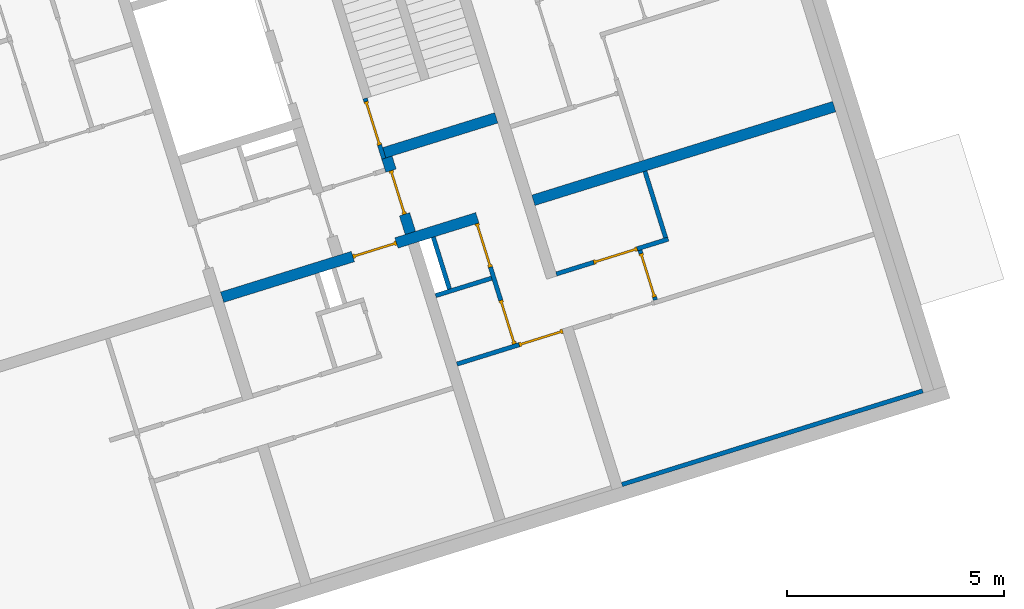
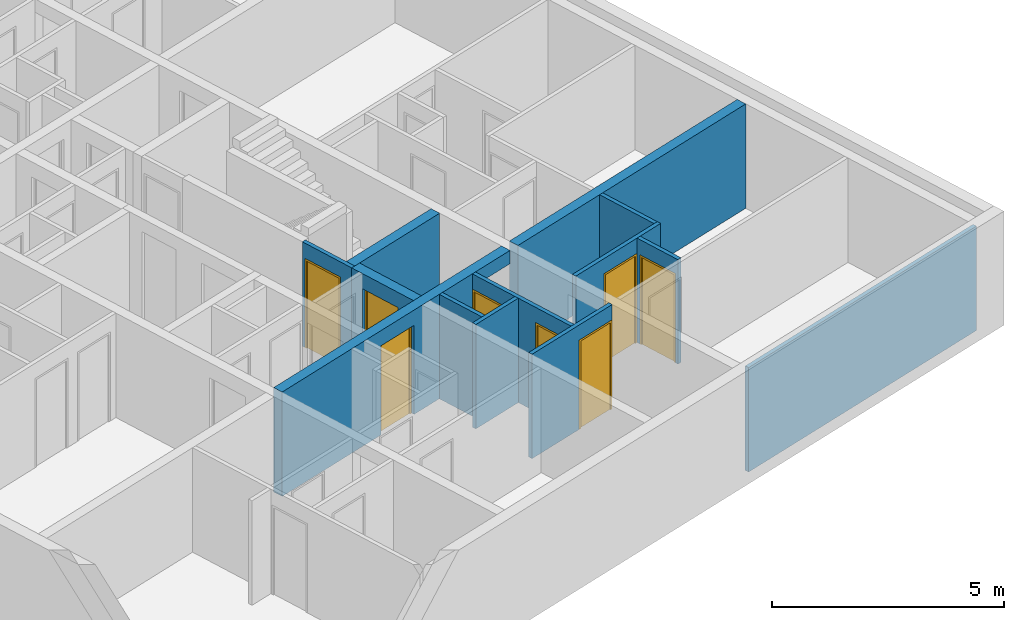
# One storey, part 3 of 8: 13 walls, 8 doors, 10 openings.
"""IFC4 building model written with IfcOpenShell, lengths in metres."""

from ifc_helpers import new_model, entity, si_unit, converted_unit, direction, frame, origin, place, context, subcontext, project, spatial, indexed_curve, outline, extrude, polygons, source, transform, mapped, material, constituent, constituent_set, type_object, type_shapes, element, fill, save


model = new_model("IFC4")

# Units and contexts
model_context = context("Model", 3, precision=1e-05, world=origin(), true_north=direction((6.12323399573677e-17, 1.0)))
body_context = subcontext(model_context, "Body", "Model", "MODEL_VIEW")
ifc_project = project(units=[si_unit("LENGTHUNIT", "METRE"), si_unit("AREAUNIT", "SQUARE_METRE"), si_unit("VOLUMEUNIT", "CUBIC_METRE"), converted_unit("PLANEANGLEUNIT", "DEGREE", entity("IfcPlaneAngleMeasure", 0.0174532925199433), si_unit("PLANEANGLEUNIT", "RADIAN"), dimensions=[0, 0, 0, 0, 0, 0, 0])], contexts=[model_context])

# Site, building, storey
site_placement = place(None, frame((13.1347999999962, 11.9886000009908, 0.0), z_axis=(0.0, 0.0, 1.0), x_axis=(0.954770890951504, 0.297342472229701, 0.0)))
site = spatial("IfcSite", under=ifc_project, at=site_placement, Name="Schiehaven", CompositionType="ELEMENT")
building_placement = place(site_placement, origin())
building = spatial("IfcBuilding", under=site, at=building_placement, Name="VORM huis", CompositionType="ELEMENT")
storey_placement = place(building_placement, frame((0.0, 0.0, 21.9)))
storey = spatial("IfcBuildingStorey", under=building, at=storey_placement, Name="07 zevende verdieping", CompositionType="ELEMENT", Elevation=21.9)

# Wall, openings, door
ifc_material_1 = material(Name="beton_gewapend_ihw", Category="Miscellaneous")
wall_type_1 = type_object("IfcWallType", Name="Basic Wall:28_WA_skelet_wand 250mm_gen", PredefinedType="STANDARD")
wall_1_placement = place(storey_placement, frame((19.8750000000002, 11.8999999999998, 0.0), z_axis=(0.0, 0.0, 1.0), x_axis=(-1.0, 0.0, 0.0)))
wall_1 = element("IfcWall", 1, at=wall_1_placement, inside=storey, type_object=wall_type_1, material=ifc_material_1, Name="Constructieve wand", ObjectType="Wand", PredefinedType="NOTDEFINED", context=body_context, shape_type="Tessellation", body=[
    polygons([(4.09999999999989, -0.124999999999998, 2.34999999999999), (4.09999999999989, -0.124999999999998, 0.0), (7.24999999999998, -0.124999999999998, 0.0), (7.24999999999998, -0.124999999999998, 2.75), (3.21810276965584e-15, -0.125, 2.75), (3.21810276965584e-15, -0.125, 2.4), (1.10000000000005, -0.125, 2.4), (1.10000000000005, -0.125, 0.0), (3.0499999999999, -0.125, 0.0), (3.0499999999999, -0.125, 2.34999999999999), (7.24999999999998, 0.125000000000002, 0.0), (4.0999999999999, 0.125000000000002, 0.0), (4.0999999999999, 0.125000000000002, 2.34999999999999), (3.0499999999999, 0.125, 2.34999999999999), (3.0499999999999, 0.125, 0.0), (1.10000000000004, 0.125, 0.0), (1.10000000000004, 0.125, 2.4), (4.15076800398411e-15, 0.125, 2.4), (8.48223652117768e-15, 0.125, 2.75), (7.24999999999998, 0.125000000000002, 2.75)], [[[1, 2, 3, 4, 5, 6, 7, 8, 9, 10]], [[11, 12, 13, 14, 15, 16, 17, 18, 19, 20]], [[9, 8, 16, 15]], [[5, 4, 20, 19]], [[5, 19, 18, 6]], [[15, 14, 10, 9]], [[13, 12, 2, 1]], [[14, 13, 1, 10]], [[17, 7, 6, 18]], [[7, 17, 16, 8]], [[4, 3, 11, 20]], [[3, 2, 12, 11]]], closed=True),
])
opening_1_placement = place(wall_1_placement, origin())
element("IfcOpeningElement", 2, at=opening_1_placement, cuts=wall_1, Name="Constructieve wand", PredefinedType="OPENING", context=body_context, shape_type="SweptSolid", body=[
    extrude(outline(indexed_curve([(-1.2, -0.550000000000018), (1.2, -0.550000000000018), (1.2, 0.550000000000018), (-1.2, 0.550000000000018), (-1.2, -0.550000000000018)], self_intersect=False)), frame((0.55000000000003, -0.125, 1.2), z_axis=(0.0, 1.0, 0.0), x_axis=(0.0, 0.0, -1.0)), (0.0, 0.0, 1.0), 0.249999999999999),
])
opening_2_placement = place(wall_1_placement, frame((4.09999999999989, 0.124999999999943, 0.0)))
opening_2 = element("IfcOpeningElement", 3, at=opening_2_placement, cuts=wall_1, Name="Woningtoegangsdeur", PredefinedType="OPENING", context=body_context, shape_type="SweptSolid", body=[
    extrude(outline(indexed_curve([(2.34999999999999, 1.05), (0.0, 1.05), (0.0, 1.08286712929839e-15), (2.34999999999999, 1.08286712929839e-15), (2.34999999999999, 1.05)], self_intersect=False)), frame((0.0, 0.0, 0.0), z_axis=(0.0, -1.0, 0.0), x_axis=(0.0, 0.0, 1.0)), (0.0, 0.0, 1.0), 0.25),
])
ifc_material_2 = material(Name="PD_a_binnenwandopeningen", Category="Miscellaneous")
ifc_constituent_1 = constituent(ifc_material_2, Name="PD_a_binnenwandopeningen", Category="Miscellaneous")
ifc_material_3 = material(Name="metaal_aluminium_ntb", Category="Miscellaneous")
ifc_constituent_2 = constituent(ifc_material_3, Name="metaal_aluminium_ntb", Category="Miscellaneous")
ifc_constituent_set_1 = constituent_set(constituents=[ifc_constituent_1, ifc_constituent_2])
door_type_1 = type_object("IfcDoorType", Name="32_DO_binnendeur enkel:woningtoegangsdeur", OperationType="REVOLVING", PredefinedType="DOOR")
shared_shape_1 = source(origin(), body_context, "Body", "SweptSolid", [
    extrude(outline(indexed_curve([(-1.16249999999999, -0.525000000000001), (1.18749999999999, -0.525), (1.18749999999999, 0.525000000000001), (-1.16249999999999, 0.525000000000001), (-1.16249999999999, 0.475), (1.13749999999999, 0.475), (1.13749999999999, -0.475), (-1.16249999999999, -0.475), (-1.16249999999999, -0.525000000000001)], self_intersect=False)), frame((0.525000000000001, 0.0749999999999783, 1.16249999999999), z_axis=(0.0, 1.0, 0.0), x_axis=(0.0, 0.0, 1.0)), (0.0, 0.0, 1.0), 0.1),
    extrude(outline(indexed_curve([(-0.025, -0.475), (0.025, -0.475), (0.025, 0.475), (-0.025, 0.475), (-0.025, -0.475)], self_intersect=False)), frame((0.525000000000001, 0.12499999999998, 0.0), z_axis=(0.0, 0.0, 1.0), x_axis=(0.0, 1.0, 0.0)), (0.0, 0.0, 1.0), 2.29999999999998),
])
door_1_placement = place(opening_2_placement, frame((0.0, 0.0, 0.0), z_axis=(0.0, 0.0, 1.0), x_axis=(-1.0, 0.0, 0.0)))
door_1 = element("IfcDoor", 4, at=door_1_placement, inside=storey, type_object=door_type_1, material=ifc_constituent_set_1, Name="Woningtoegangsdeur", ObjectType="Deur", OperationType="REVOLVING", OverallHeight=2.34999999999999, OverallWidth=1.05, PredefinedType="DOOR", context=body_context, shape_type="MappedRepresentation", body=[
    mapped(shared_shape_1, transform((0.0, 0.0, 0.0), scale=1.0)),
])
fill(opening_2, door_1)

# Walls
ifc_material_4 = material(Name="ntb_ntb_ntb", Category="Miscellaneous")
wall_type_2 = type_object("IfcWallType", Name="Basic Wall:21_WA_gevel_binnenspouwwand 100mm_gen", PredefinedType="STANDARD")
wall_2_placement = place(storey_placement, frame((20.125, 5.04999999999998, 0.0)))
element("IfcWall", 5, at=wall_2_placement, inside=storey, type_object=wall_type_2, material=ifc_material_4, Name="Binnenspouwblad", ObjectType="Wand", PredefinedType="NOTDEFINED", context=body_context, shape_type="SweptSolid", body=[
    extrude(outline(indexed_curve([(7.24999999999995, 0.0500000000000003), (-1.84844170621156e-16, 0.0500000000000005), (1.84844170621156e-16, -0.0500000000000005), (7.24999999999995, -0.0500000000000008), (7.24999999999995, 0.0500000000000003)], self_intersect=False)), origin(), (0.0, 0.0, 1.0), 2.75),
])
wall_type_3 = type_object("IfcWallType", Name="Basic Wall:22_WA_afbouw_binnenwand 250mm_gen", PredefinedType="STANDARD")
wall_3_placement = place(storey_placement, frame((20.125, 11.9, 0.0)))
element("IfcWall", 6, at=wall_3_placement, inside=storey, type_object=wall_type_3, material=ifc_material_4, Name="Binnenwand", ObjectType="Wand", PredefinedType="NOTDEFINED", context=body_context, shape_type="SweptSolid", body=[
    extrude(outline(indexed_curve([(7.24999999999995, 0.125), (-1.92055213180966e-16, 0.125), (1.92055213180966e-16, -0.125), (7.24999999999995, -0.124999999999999), (7.24999999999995, 0.125)], self_intersect=False)), origin(), (0.0, 0.0, 1.0), 2.75),
])

# Wall, opening, door
wall_4_placement = place(storey_placement, frame((17.2000000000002, 13.8399999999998, 0.0), z_axis=(0.0, 0.0, 1.0), x_axis=(0.0, -1.0, 0.0)))
wall_4 = element("IfcWall", 7, at=wall_4_placement, inside=storey, type_object=wall_type_3, material=ifc_material_4, Name="Binnenwand", ObjectType="Wand", PredefinedType="NOTDEFINED", context=body_context, shape_type="Tessellation", body=[
    polygons([(-4.33146851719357e-15, -0.124999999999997, 0.0), (0.215000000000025, -0.125, 0.0), (0.315000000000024, -0.124999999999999, 0.0), (0.315000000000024, -0.124999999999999, 2.34999999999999), (1.36500000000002, -0.125, 2.34999999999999), (1.36500000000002, -0.125, 0.0), (1.81499999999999, -0.125, 0.0), (1.81499999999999, -0.125, 2.75), (0.315000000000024, -0.124999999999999, 2.75), (0.215000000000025, -0.125, 2.75), (-4.33146851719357e-15, -0.124999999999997, 2.75), (0.315000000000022, 0.125000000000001, 2.34999999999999), (0.315000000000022, 0.125000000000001, 0.0), (0.0, 0.125, 0.0), (0.0, 0.125, 2.75), (1.81499999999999, 0.124999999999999, 2.75), (1.81499999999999, 0.124999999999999, 0.0), (1.36500000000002, 0.124999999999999, 0.0), (1.36500000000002, 0.124999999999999, 2.34999999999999), (0.0, -0.0250000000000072, 0.0), (0.0, -0.0250000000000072, 2.75)], [[[1, 2, 3, 4, 5, 6, 7, 8, 9, 10, 11]], [[12, 13, 14, 15, 16, 17, 18, 19]], [[14, 13, 3, 2, 1, 20]], [[8, 7, 17, 16]], [[11, 10, 9, 8, 16, 15, 21]], [[6, 5, 19, 18]], [[4, 3, 13, 12]], [[5, 4, 12, 19]], [[1, 11, 21, 15, 14, 20]], [[18, 17, 7, 6]]], closed=True),
])
opening_3_placement = place(wall_4_placement, frame((1.36500000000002, 0.124999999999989, 0.0)))
opening_3 = element("IfcOpeningElement", 8, at=opening_3_placement, cuts=wall_4, Name="Woningtoegangsdeur", PredefinedType="OPENING", context=body_context, shape_type="SweptSolid", body=[
    extrude(outline(indexed_curve([(2.34999999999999, 1.35358391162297e-15), (2.34999999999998, 1.05), (0.0, 1.05), (2.16573425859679e-15, 1.35358391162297e-15), (2.34999999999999, 1.35358391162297e-15)], self_intersect=False)), frame((0.0, 0.0, 0.0), z_axis=(0.0, -1.0, 0.0), x_axis=(0.0, 0.0, 1.0)), (0.0, 0.0, 1.0), 0.25),
])
ifc_constituent_3 = constituent(ifc_material_2, Name="PD_a_binnenwandopeningen", Category="Miscellaneous")
ifc_constituent_4 = constituent(ifc_material_3, Name="metaal_aluminium_ntb", Category="Miscellaneous")
ifc_constituent_set_2 = constituent_set(constituents=[ifc_constituent_3, ifc_constituent_4])
shared_shape_2 = source(origin(), body_context, "Body", "SweptSolid", [
    extrude(outline(indexed_curve([(0.475, -1.16249999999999), (0.525000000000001, -1.16249999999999), (0.525000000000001, 1.18749999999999), (-0.525000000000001, 1.18749999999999), (-0.525000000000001, -1.16249999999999), (-0.475, -1.16249999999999), (-0.475, 1.13749999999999), (0.475, 1.13749999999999), (0.475, -1.16249999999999)], self_intersect=False)), frame((0.525000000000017, 0.174999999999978, 1.16249999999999), z_axis=(0.0, -1.0, 0.0), x_axis=(1.0, 0.0, 0.0)), (0.0, 0.0, 1.0), 0.1),
    extrude(outline(indexed_curve([(-0.475, -0.025), (0.475, -0.025), (0.475, 0.025), (-0.475, 0.025), (-0.475, -0.025)], self_intersect=False)), frame((0.525000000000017, 0.12499999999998, 0.0)), (0.0, 0.0, 1.0), 2.29999999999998),
])
door_2_placement = place(opening_3_placement, frame((0.0, 0.0, 0.0), z_axis=(0.0, 0.0, 1.0), x_axis=(-1.0, 0.0, 0.0)))
door_2 = element("IfcDoor", 9, at=door_2_placement, inside=storey, type_object=door_type_1, material=ifc_constituent_set_2, Name="Woningtoegangsdeur", ObjectType="Deur", OperationType="REVOLVING", OverallHeight=2.34999999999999, OverallWidth=1.05, PredefinedType="DOOR", context=body_context, shape_type="MappedRepresentation", body=[
    mapped(shared_shape_2, transform((0.0, 0.0, 0.0), scale=1.0)),
])
fill(opening_3, door_2)

# Wall
wall_5_placement = place(storey_placement, frame((19.8750000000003, 13.9649999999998, 0.0), z_axis=(0.0, 0.0, 1.0), x_axis=(-1.0, 0.0, 0.0)))
element("IfcWall", 10, at=wall_5_placement, inside=storey, type_object=wall_type_3, material=ifc_material_4, Name="Binnenwand", ObjectType="Wand", PredefinedType="NOTDEFINED", context=body_context, shape_type="SweptSolid", body=[
    extrude(outline(indexed_curve([(2.70000000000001, 0.124999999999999), (2.34490905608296e-15, 0.125), (1.98655946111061e-15, -0.125), (2.70000000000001, -0.125), (2.70000000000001, 0.124999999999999)], self_intersect=False)), origin(), (0.0, 0.0, 1.0), 2.75),
])

# Wall, opening, door
wall_type_4 = type_object("IfcWallType", Name="Basic Wall:22_WA_afbouw_binnenwand 100mm_gen", PredefinedType="STANDARD")
wall_6_placement = place(storey_placement, frame((17.1250000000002, 13.8399999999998, 0.0), z_axis=(0.0, 0.0, 1.0), x_axis=(0.0, 1.0, 0.0)))
wall_6 = element("IfcWall", 11, at=wall_6_placement, inside=storey, type_object=wall_type_4, material=ifc_material_4, Name="Binnenwand", ObjectType="Wand", PredefinedType="NOTDEFINED", context=body_context, shape_type="Tessellation", body=[
    polygons([(1.44999999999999, -0.0499999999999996, 0.0), (1.44999999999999, -0.0499999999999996, 2.75), (0.249999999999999, -0.0500000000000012, 2.75), (2.16573425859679e-15, -0.0500000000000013, 2.75), (2.16573425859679e-15, -0.0500000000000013, 0.0), (0.249999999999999, -0.0500000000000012, 0.0), (0.324999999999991, -0.0499999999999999, 0.0), (0.324999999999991, -0.0499999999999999, 2.34999999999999), (1.37499999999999, -0.050000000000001, 2.34999999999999), (1.37499999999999, -0.050000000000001, 0.0), (1.44999999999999, 0.0500000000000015, 2.75), (1.44999999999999, 0.0500000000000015, 0.0), (1.37499999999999, 0.0500000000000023, 0.0), (1.37499999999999, 0.0500000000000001, 2.34999999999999), (0.324999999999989, 0.0500000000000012, 2.34999999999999), (0.324999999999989, 0.0500000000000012, 0.0), (0.0, 0.050000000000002, 0.0), (0.0, 0.050000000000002, 2.75)], [[[1, 2, 3, 4, 5, 6, 7, 8, 9, 10]], [[11, 12, 13, 14, 15, 16, 17, 18]], [[5, 17, 16, 7, 6]], [[2, 1, 12, 11]], [[4, 3, 2, 11, 18]], [[15, 8, 7, 16]], [[9, 14, 13, 10]], [[8, 15, 14, 9]], [[5, 4, 18, 17]], [[12, 1, 10, 13]]], closed=True),
])
opening_4_placement = place(wall_6_placement, frame((1.37499999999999, 0.0499999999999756, 0.0)))
opening_4 = element("IfcOpeningElement", 12, at=opening_4_placement, cuts=wall_6, Name="Vluchtdeur", PredefinedType="OPENING", context=body_context, shape_type="SweptSolid", body=[
    extrude(outline(indexed_curve([(2.34999999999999, 1.05), (0.0, 1.05), (0.0, 1.35358391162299e-15), (2.34999999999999, 1.35358391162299e-15), (2.34999999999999, 1.05)], self_intersect=False)), frame((0.0, 0.0, 0.0), z_axis=(0.0, -1.0, 0.0), x_axis=(0.0, 0.0, 1.0)), (0.0, 0.0, 1.0), 0.1),
])
ifc_constituent_5 = constituent(ifc_material_2, Name="PD_a_binnenwandopeningen", Category="Miscellaneous")
ifc_constituent_6 = constituent(ifc_material_3, Name="metaal_aluminium_ntb", Category="Miscellaneous")
ifc_constituent_set_3 = constituent_set(constituents=[ifc_constituent_5, ifc_constituent_6])
door_type_2 = type_object("IfcDoorType", Name="32_DO_binnendeur enkel:binnendeur zelfsluitend 30min", OperationType="NOTDEFINED", PredefinedType="DOOR")
shared_shape_3 = source(origin(), body_context, "Body", "SweptSolid", [
    extrude(outline(indexed_curve([(-1.16249999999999, -0.525000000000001), (1.18749999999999, -0.525), (1.18749999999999, 0.525), (-1.16249999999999, 0.525), (-1.16249999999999, 0.475), (1.13749999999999, 0.475), (1.13749999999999, -0.475), (-1.16249999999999, -0.475), (-1.16249999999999, -0.525000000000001)], self_intersect=False)), frame((0.525000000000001, 0.0, 1.16249999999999), z_axis=(0.0, 1.0, 0.0), x_axis=(0.0, 0.0, 1.0)), (0.0, 0.0, 1.0), 0.1),
    extrude(outline(indexed_curve([(-0.025, -0.475), (0.025, -0.475), (0.025, 0.475), (-0.025, 0.475), (-0.025, -0.475)], self_intersect=False)), frame((0.525000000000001, 0.0499999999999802, 0.0), z_axis=(0.0, 0.0, 1.0), x_axis=(0.0, 1.0, 0.0)), (0.0, 0.0, 1.0), 2.29999999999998),
])
type_shapes(door_type_2, [shared_shape_3])
door_3_placement = place(opening_4_placement, frame((0.0, 0.0, 0.0), z_axis=(0.0, 0.0, 1.0), x_axis=(-1.0, 0.0, 0.0)))
door_3 = element("IfcDoor", 13, at=door_3_placement, inside=storey, type_object=door_type_2, material=ifc_constituent_set_3, Name="Vluchtdeur", ObjectType="Deur", OperationType="NOTDEFINED", OverallHeight=2.34999999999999, OverallWidth=1.05, PredefinedType="DOOR", context=body_context, shape_type="MappedRepresentation", body=[
    mapped(shared_shape_3, transform((0.0, 0.0, 0.0), scale=1.0)),
])
fill(opening_4, door_3)

# Wall
wall_7_placement = place(storey_placement, frame((17.3250000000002, 10.4749999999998, 0.0)))
element("IfcWall", 14, at=wall_7_placement, inside=storey, type_object=wall_type_4, material=ifc_material_4, Name="Binnenwand", ObjectType="Wand", PredefinedType="NOTDEFINED", context=body_context, shape_type="SweptSolid", body=[
    extrude(outline(indexed_curve([(1.34999999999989, 0.0500000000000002), (-1.88291440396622e-16, 0.0499999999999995), (1.88291440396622e-16, -0.0499999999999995), (1.34999999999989, -0.0499999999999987), (1.34999999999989, 0.0500000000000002)], self_intersect=False)), origin(), (0.0, 0.0, 1.0), 2.75),
])

# Wall, opening, door
wall_8_placement = place(storey_placement, frame((22.8250000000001, 10.1249999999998, 0.0), z_axis=(0.0, 0.0, 1.0), x_axis=(-1.0, 0.0, 0.0)))
wall_8 = element("IfcWall", 15, at=wall_8_placement, inside=storey, type_object=wall_type_4, material=ifc_material_4, Name="Binnenwand", ObjectType="Wand", PredefinedType="NOTDEFINED", context=body_context, shape_type="Tessellation", body=[
    polygons([(4.28724628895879e-16, -0.0500000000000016, 0.0), (0.0999999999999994, -0.0500000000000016, 0.0), (0.750000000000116, -0.0500000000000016, 0.0), (0.750000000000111, -0.0500000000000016, 2.34999999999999), (1.80000000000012, -0.0500000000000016, 2.34999999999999), (1.80000000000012, -0.0500000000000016, 0.0), (2.69999999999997, -0.0500000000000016, 0.0), (2.69999999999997, -0.0500000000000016, 2.75), (0.0999999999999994, -0.0500000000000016, 2.75), (4.28724628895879e-16, -0.0500000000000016, 2.75), (0.750000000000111, 0.0499999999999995, 2.34999999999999), (0.750000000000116, 0.0499999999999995, 0.0), (0.650000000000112, 0.0499999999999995, 0.0), (1.26523112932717e-16, 0.0499999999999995, 0.0), (1.26523112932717e-16, 0.0499999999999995, 2.75), (0.650000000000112, 0.0499999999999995, 2.75), (0.750000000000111, 0.0499999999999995, 2.75), (2.69999999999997, 0.0499999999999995, 2.75), (2.69999999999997, 0.0499999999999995, 0.0), (1.80000000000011, 0.0499999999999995, 0.0), (1.80000000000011, 0.0499999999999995, 2.34999999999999)], [[[1, 2, 3, 4, 5, 6, 7, 8, 9, 10]], [[11, 12, 13, 14, 15, 16, 17, 18, 19, 20, 21]], [[14, 13, 12, 3, 2, 1]], [[8, 7, 19, 18]], [[10, 9, 8, 18, 17, 16, 15]], [[6, 5, 21, 20]], [[4, 3, 12, 11]], [[5, 4, 11, 21]], [[1, 10, 15, 14]], [[20, 19, 7, 6]]], closed=True),
])
opening_5_placement = place(wall_8_placement, frame((0.750000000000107, -0.0500000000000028, 0.0)))
opening_5 = element("IfcOpeningElement", 16, at=opening_5_placement, cuts=wall_8, Name="Binnendeur", PredefinedType="OPENING", context=body_context, shape_type="SweptSolid", body=[
    extrude(outline(indexed_curve([(2.34999999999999, 1.05), (0.0, 1.05), (0.0, -3.50253438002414e-30), (2.34999999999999, -3.50253438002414e-30), (2.34999999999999, 1.05)], self_intersect=False)), frame((0.0, 0.0, 0.0), z_axis=(0.0, 1.0, 0.0), x_axis=(0.0, 0.0, 1.0)), (0.0, 0.0, 1.0), 0.1),
])
ifc_constituent_7 = constituent(ifc_material_2, Name="PD_a_binnenwandopeningen", Category="Miscellaneous")
ifc_constituent_8 = constituent(ifc_material_3, Name="metaal_aluminium_ntb", Category="Miscellaneous")
ifc_constituent_set_4 = constituent_set(constituents=[ifc_constituent_7, ifc_constituent_8])
door_type_3 = type_object("IfcDoorType", Name="32_DO_binnendeur enkel:binnendeur", OperationType="REVOLVING", PredefinedType="DOOR")
shared_shape_4 = source(origin(), body_context, "Body", "SweptSolid", [
    extrude(outline(indexed_curve([(-1.16249999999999, -0.525000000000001), (1.18749999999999, -0.525), (1.18749999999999, 0.525), (-1.16249999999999, 0.525), (-1.16249999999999, 0.475), (1.13749999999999, 0.475), (1.13749999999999, -0.475), (-1.16249999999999, -0.475), (-1.16249999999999, -0.525000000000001)], self_intersect=False)), frame((0.525000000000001, 0.0, 1.16249999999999), z_axis=(0.0, 1.0, 0.0), x_axis=(0.0, 0.0, 1.0)), (0.0, 0.0, 1.0), 0.1),
    extrude(outline(indexed_curve([(-0.025, -0.475), (0.025, -0.475), (0.025, 0.475), (-0.025, 0.475), (-0.025, -0.475)], self_intersect=False)), frame((0.525000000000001, 0.0499999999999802, 0.0), z_axis=(0.0, 0.0, 1.0), x_axis=(0.0, 1.0, 0.0)), (0.0, 0.0, 1.0), 2.29999999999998),
])
type_shapes(door_type_3, [shared_shape_4])
door_4_placement = place(opening_5_placement, origin())
door_4 = element("IfcDoor", 17, at=door_4_placement, inside=storey, type_object=door_type_3, material=ifc_constituent_set_4, Name="Binnendeur", ObjectType="Deur", OperationType="REVOLVING", OverallHeight=2.34999999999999, OverallWidth=1.05, PredefinedType="DOOR", context=body_context, shape_type="MappedRepresentation", body=[
    mapped(shared_shape_4, transform((0.0, 0.0, 0.0), scale=1.0)),
])
fill(opening_5, door_4)

# Wall
wall_9_placement = place(storey_placement, frame((22.7750000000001, 10.1749999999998, 0.0), z_axis=(0.0, 0.0, 1.0), x_axis=(0.0, 1.0, 0.0)))
element("IfcWall", 18, at=wall_9_placement, inside=storey, type_object=wall_type_4, material=ifc_material_4, Name="Binnenwand", ObjectType="Wand", PredefinedType="NOTDEFINED", context=body_context, shape_type="SweptSolid", body=[
    extrude(outline(indexed_curve([(1.6000000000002, 0.0500000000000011), (-1.18119716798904e-16, 0.0500000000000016), (1.18119716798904e-16, -0.0500000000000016), (1.6000000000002, -0.0500000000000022), (1.6000000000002, 0.0500000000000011)], self_intersect=False)), origin(), (0.0, 0.0, 1.0), 2.75),
])

# Wall, opening, door
wall_10_placement = place(storey_placement, frame((22.125, 10.0749999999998, 0.0), z_axis=(0.0, 0.0, 1.0), x_axis=(0.0, -1.0, 0.0)))
wall_10 = element("IfcWall", 19, at=wall_10_placement, inside=storey, type_object=wall_type_4, material=ifc_material_4, Name="Binnenwand", ObjectType="Wand", PredefinedType="NOTDEFINED", context=body_context, shape_type="Tessellation", body=[
    polygons([(1.19999999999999, -0.0499999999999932, 2.75), (0.0, -0.0499999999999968, 2.75), (0.0, -0.0499999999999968, 2.34999999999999), (0.0, -0.0499999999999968, 0.0), (0.0799999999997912, -0.049999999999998, 0.0), (0.0799999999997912, -0.0499999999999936, 2.34999999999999), (1.12999999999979, -0.0499999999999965, 2.34999999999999), (1.12999999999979, -0.0499999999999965, 0.0), (1.19999999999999, -0.0499999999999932, 0.0), (1.19999999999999, -0.0499999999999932, 2.34999999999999), (2.16573425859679e-15, 0.0500000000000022, 2.75), (1.19999999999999, 0.0500000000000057, 2.75), (1.19999999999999, 0.0500000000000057, 0.0), (1.12999999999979, 0.0500000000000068, 0.0), (1.12999999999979, 0.0500000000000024, 2.34999999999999), (0.0799999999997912, 0.0500000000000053, 2.34999999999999), (0.0799999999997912, 0.0500000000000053, 0.0), (2.16573425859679e-15, 0.0500000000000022, 0.0)], [[[1, 2, 3, 4, 5, 6, 7, 8, 9, 10]], [[11, 12, 13, 14, 15, 16, 17, 18]], [[4, 18, 17, 5]], [[2, 1, 12, 11]], [[7, 15, 14, 8]], [[15, 7, 6, 16]], [[16, 6, 5, 17]], [[1, 10, 9, 13, 12]], [[4, 3, 2, 11, 18]], [[13, 9, 8, 14]]], closed=True),
])
opening_6_placement = place(wall_10_placement, frame((1.12999999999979, 0.0500000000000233, 0.0)))
opening_6 = element("IfcOpeningElement", 20, at=opening_6_placement, cuts=wall_10, Name="Binnendeur", PredefinedType="OPENING", context=body_context, shape_type="SweptSolid", body=[
    extrude(outline(indexed_curve([(2.34999999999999, 1.35358391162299e-15), (2.34999999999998, 1.05), (0.0, 1.05), (2.16573425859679e-15, 1.35358391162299e-15), (2.34999999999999, 1.35358391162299e-15)], self_intersect=False)), frame((0.0, 0.0, 0.0), z_axis=(0.0, -1.0, 0.0), x_axis=(0.0, 0.0, 1.0)), (0.0, 0.0, 1.0), 0.1),
])
ifc_constituent_9 = constituent(ifc_material_2, Name="PD_a_binnenwandopeningen", Category="Miscellaneous")
ifc_constituent_10 = constituent(ifc_material_3, Name="metaal_aluminium_ntb", Category="Miscellaneous")
ifc_constituent_set_5 = constituent_set(constituents=[ifc_constituent_9, ifc_constituent_10])
shared_shape_5 = source(origin(), body_context, "Body", "SweptSolid", [
    extrude(outline(indexed_curve([(0.475, -1.16249999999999), (0.525, -1.16249999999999), (0.525, 1.18749999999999), (-0.525, 1.18749999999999), (-0.525, -1.16249999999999), (-0.475, -1.16249999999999), (-0.475, 1.13749999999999), (0.475, 1.13749999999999), (0.475, -1.16249999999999)], self_intersect=False)), frame((0.525000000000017, 0.100000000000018, 1.16249999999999), z_axis=(0.0, -1.0, 0.0), x_axis=(1.0, 0.0, 0.0)), (0.0, 0.0, 1.0), 0.1),
    extrude(outline(indexed_curve([(-0.475, -0.025), (0.475, -0.025), (0.475, 0.025), (-0.475, 0.025), (-0.475, -0.025)], self_intersect=False)), frame((0.525000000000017, 0.0499999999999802, 0.0)), (0.0, 0.0, 1.0), 2.29999999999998),
])
door_5_placement = place(opening_6_placement, frame((0.0, 0.0, 0.0), z_axis=(0.0, 0.0, 1.0), x_axis=(-1.0, 0.0, 0.0)))
door_5 = element("IfcDoor", 21, at=door_5_placement, inside=storey, type_object=door_type_3, material=ifc_constituent_set_5, Name="Binnendeur", ObjectType="Deur", OperationType="REVOLVING", OverallHeight=2.34999999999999, OverallWidth=1.05, PredefinedType="DOOR", context=body_context, shape_type="MappedRepresentation", body=[
    mapped(shared_shape_5, transform((0.0, 0.0, 0.0), scale=1.0)),
])
fill(opening_6, door_5)

# Wall, openings, door
wall_11_placement = place(storey_placement, frame((17.3250000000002, 8.82499999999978, 0.0)))
wall_11 = element("IfcWall", 22, at=wall_11_placement, inside=storey, type_object=wall_type_4, material=ifc_material_4, Name="Binnenwand", ObjectType="Wand", PredefinedType="NOTDEFINED", context=body_context, shape_type="Tessellation", body=[
    polygons([(2.5499999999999, -0.0499999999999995, 2.75), (1.60660034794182e-15, -0.0500000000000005, 2.75), (1.60660034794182e-15, -0.0500000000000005, 0.0), (1.49999999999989, -0.0500000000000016, 0.0), (1.49999999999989, -0.0500000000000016, 2.34999999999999), (2.5499999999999, -0.0499999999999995, 2.34999999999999), (1.23001746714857e-15, 0.0499999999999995, 2.75), (1.34999999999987, 0.0499999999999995, 2.75), (1.44999999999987, 0.0499999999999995, 2.75), (2.5499999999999, 0.0499999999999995, 2.75), (2.5499999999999, 0.0499999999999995, 2.34999999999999), (1.49999999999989, 0.0499999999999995, 2.34999999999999), (1.49999999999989, 0.0499999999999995, 0.0), (1.23001746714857e-15, 0.0499999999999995, 0.0)], [[[1, 2, 3, 4, 5, 6]], [[7, 8, 9, 10, 11, 12, 13, 14]], [[3, 14, 13, 4]], [[10, 1, 6, 11]], [[2, 1, 10, 9, 8, 7]], [[3, 2, 7, 14]], [[12, 5, 4, 13]], [[5, 12, 11, 6]]], closed=True),
])
opening_7_placement = place(wall_11_placement, origin())
element("IfcOpeningElement", 23, at=opening_7_placement, cuts=wall_11, Name="Binnendeur", PredefinedType="OPENING", context=body_context, shape_type="SweptSolid", body=[
    extrude(outline(indexed_curve([(-0.0499999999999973, -1.17499999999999), (0.0500000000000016, -1.17499999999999), (0.0500000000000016, 1.17499999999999), (-0.0499999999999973, 1.17499999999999), (-0.0499999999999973, -1.17499999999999)], self_intersect=False)), frame((1.39999999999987, 0.0500000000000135, 1.17499999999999), z_axis=(0.0, 1.0, 0.0), x_axis=(-1.0, 0.0, 0.0)), (0.0, 0.0, 1.0), 1.05),
])
opening_8_placement = place(wall_11_placement, frame((1.49999999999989, -0.0500000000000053, 0.0)))
opening_8 = element("IfcOpeningElement", 24, at=opening_8_placement, cuts=wall_11, Name="Binnendeur", PredefinedType="OPENING", context=body_context, shape_type="SweptSolid", body=[
    extrude(outline(indexed_curve([(2.34999999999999, 1.05), (0.0, 1.05), (0.0, 1.35358391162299e-15), (2.34999999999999, 1.35358391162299e-15), (2.34999999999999, 1.05)], self_intersect=False)), frame((0.0, 0.0, 0.0), z_axis=(0.0, 1.0, 0.0), x_axis=(0.0, 0.0, 1.0)), (0.0, 0.0, 1.0), 0.1),
])
ifc_constituent_11 = constituent(ifc_material_2, Name="PD_a_binnenwandopeningen", Category="Miscellaneous")
ifc_constituent_12 = constituent(ifc_material_3, Name="metaal_aluminium_ntb", Category="Miscellaneous")
ifc_constituent_set_6 = constituent_set(constituents=[ifc_constituent_11, ifc_constituent_12])
door_6_placement = place(opening_8_placement, origin())
door_6 = element("IfcDoor", 25, at=door_6_placement, inside=storey, type_object=door_type_3, material=ifc_constituent_set_6, Name="Binnendeur", ObjectType="Deur", OperationType="REVOLVING", OverallHeight=2.34999999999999, OverallWidth=1.05, PredefinedType="DOOR", context=body_context, shape_type="MappedRepresentation", body=[
    mapped(shared_shape_4, transform((0.0, 0.0, 0.0), scale=1.0)),
])
fill(opening_8, door_6)

# Wall, openings, doors
wall_12_placement = place(storey_placement, frame((18.7250000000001, 11.7749999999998, 0.0), z_axis=(0.0, 0.0, 1.0), x_axis=(0.0, -1.0, 0.0)))
wall_12 = element("IfcWall", 26, at=wall_12_placement, inside=storey, type_object=wall_type_4, material=ifc_material_4, Name="Binnenwand", ObjectType="Wand", PredefinedType="NOTDEFINED", context=body_context, shape_type="Tessellation", body=[
    polygons([(2.90000000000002, -0.0499999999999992, 2.75), (1.35000000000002, -0.0499999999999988, 2.75), (1.25000000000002, -0.0500000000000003, 2.75), (2.16573425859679e-15, -0.0499999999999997, 2.75), (2.16573425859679e-15, -0.0499999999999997, 2.34999999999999), (1.05, -0.049999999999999, 2.34999999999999), (1.05, -0.0500000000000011, 0.0), (1.25000000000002, -0.0500000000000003, 0.0), (1.35000000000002, -0.0499999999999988, 0.0), (1.85, -0.0499999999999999, 0.0), (1.85, -0.0499999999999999, 2.34999999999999), (2.90000000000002, -0.0499999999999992, 2.34999999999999), (2.16573425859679e-15, 0.0500000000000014, 2.75), (2.90000000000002, 0.0499999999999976, 2.75), (2.90000000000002, 0.0499999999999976, 2.34999999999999), (1.85, 0.049999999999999, 2.34999999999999), (1.85, 0.049999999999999, 0.0), (1.05, 0.0499999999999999, 0.0), (1.05, 0.0499999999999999, 2.34999999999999), (2.16573425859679e-15, 0.0500000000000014, 2.34999999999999)], [[[1, 2, 3, 4, 5, 6, 7, 8, 9, 10, 11, 12]], [[13, 14, 15, 16, 17, 18, 19, 20]], [[17, 10, 9, 8, 7, 18]], [[4, 3, 2, 1, 14, 13]], [[4, 13, 20, 5]], [[6, 19, 18, 7]], [[19, 6, 5, 20]], [[16, 11, 10, 17]], [[11, 16, 15, 12]], [[14, 1, 12, 15]]], closed=True),
])
opening_9_placement = place(wall_12_placement, frame((1.85, -0.0500000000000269, 0.0)))
opening_9 = element("IfcOpeningElement", 27, at=opening_9_placement, cuts=wall_12, Name="Binnendeur", PredefinedType="OPENING", context=body_context, shape_type="SweptSolid", body=[
    extrude(outline(indexed_curve([(2.34999999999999, 1.05), (0.0, 1.05), (0.0, 2.70716782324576e-16), (2.34999999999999, 2.70716782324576e-16), (2.34999999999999, 1.05)], self_intersect=False)), frame((0.0, 0.0, 0.0), z_axis=(0.0, 1.0, 0.0), x_axis=(0.0, 0.0, 1.0)), (0.0, 0.0, 1.0), 0.1),
])
opening_10_placement = place(wall_12_placement, frame((0.0, -0.0499999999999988, 0.0)))
opening_10 = element("IfcOpeningElement", 28, at=opening_10_placement, cuts=wall_12, Name="Binnendeur", PredefinedType="OPENING", context=body_context, shape_type="SweptSolid", body=[
    extrude(outline(indexed_curve([(2.34999999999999, 1.05), (0.0, 1.05), (0.0, 1.35358391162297e-15), (2.34999999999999, 1.35358391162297e-15), (2.34999999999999, 1.05)], self_intersect=False)), frame((0.0, 0.0, 0.0), z_axis=(0.0, 1.0, 0.0), x_axis=(0.0, 0.0, 1.0)), (0.0, 0.0, 1.0), 0.1),
])
ifc_constituent_13 = constituent(ifc_material_2, Name="PD_a_binnenwandopeningen", Category="Miscellaneous")
ifc_constituent_14 = constituent(ifc_material_3, Name="metaal_aluminium_ntb", Category="Miscellaneous")
ifc_constituent_set_7 = constituent_set(constituents=[ifc_constituent_13, ifc_constituent_14])
door_7_placement = place(opening_9_placement, origin())
door_7 = element("IfcDoor", 29, at=door_7_placement, inside=storey, type_object=door_type_3, material=ifc_constituent_set_7, Name="Binnendeur", ObjectType="Deur", OperationType="REVOLVING", OverallHeight=2.34999999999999, OverallWidth=1.05, PredefinedType="DOOR", context=body_context, shape_type="MappedRepresentation", body=[
    mapped(shared_shape_4, transform((0.0, 0.0, 0.0), scale=1.0)),
])
fill(opening_9, door_7)
ifc_constituent_15 = constituent(ifc_material_2, Name="PD_a_binnenwandopeningen", Category="Miscellaneous")
ifc_constituent_16 = constituent(ifc_material_3, Name="metaal_aluminium_ntb", Category="Miscellaneous")
ifc_constituent_set_8 = constituent_set(constituents=[ifc_constituent_15, ifc_constituent_16])
door_8_placement = place(opening_10_placement, origin())
door_8 = element("IfcDoor", 30, at=door_8_placement, inside=storey, type_object=door_type_3, material=ifc_constituent_set_8, Name="Binnendeur", ObjectType="Deur", OperationType="REVOLVING", OverallHeight=2.34999999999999, OverallWidth=1.05, PredefinedType="DOOR", context=body_context, shape_type="MappedRepresentation", body=[
    mapped(shared_shape_4, transform((0.0, 0.0, 0.0), scale=1.0)),
])
fill(opening_10, door_8)

# Wall
wall_13_placement = place(storey_placement, frame((17.6750000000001, 11.7749999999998, 0.0), z_axis=(0.0, 0.0, 1.0), x_axis=(0.0, -1.0, 0.0)))
element("IfcWall", 31, at=wall_13_placement, inside=storey, type_object=wall_type_4, material=ifc_material_4, Name="Binnenwand", ObjectType="Wand", PredefinedType="NOTDEFINED", context=body_context, shape_type="SweptSolid", body=[
    extrude(outline(indexed_curve([(1.25000000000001, 0.0500000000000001), (7.54991624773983e-16, 0.0499999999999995), (-7.54991624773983e-16, -0.0499999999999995), (1.25000000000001, -0.0499999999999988), (1.25000000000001, 0.0500000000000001)], self_intersect=False)), origin(), (0.0, 0.0, 1.0), 2.75),
])

save(model, "model.ifc")
